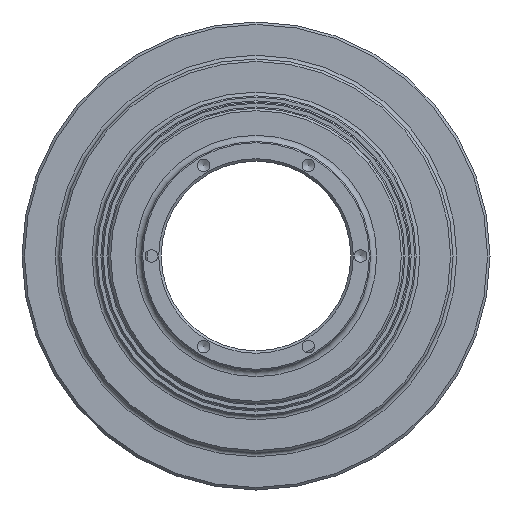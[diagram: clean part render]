
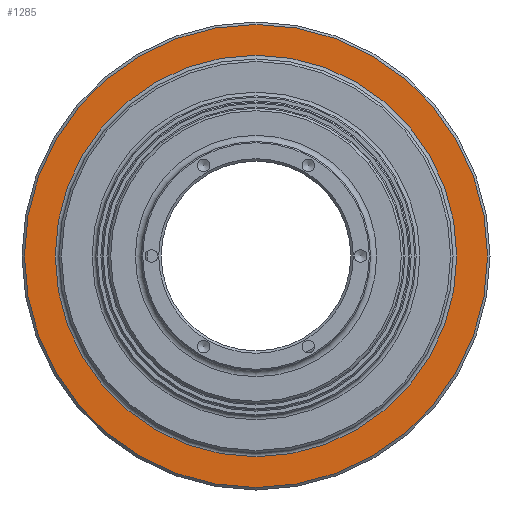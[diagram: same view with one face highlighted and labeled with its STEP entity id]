
A CAD part, left-side view. The second image highlights one B-rep face of the part: STEP entity #1285.
In plain terms, the highlighted planar face has unit normal (-1, 0, 0).
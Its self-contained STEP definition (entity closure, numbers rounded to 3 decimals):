
#59=FACE_BOUND('',#393,.T.);
#86=PLANE('',#1462);
#293=FACE_OUTER_BOUND('',#392,.T.);
#392=EDGE_LOOP('',(#1052));
#393=EDGE_LOOP('',(#1053));
#526=CIRCLE('',#1458,188.);
#529=CIRCLE('',#1463,163.);
#642=VERTEX_POINT('',#2223);
#645=VERTEX_POINT('',#2233);
#794=EDGE_CURVE('',#642,#642,#526,.T.);
#798=EDGE_CURVE('',#645,#645,#529,.T.);
#1052=ORIENTED_EDGE('',*,*,#794,.F.);
#1053=ORIENTED_EDGE('',*,*,#798,.F.);
#1285=ADVANCED_FACE('',(#293,#59),#86,.T.);
#1458=AXIS2_PLACEMENT_3D('',#2225,#1795,#1796);
#1462=AXIS2_PLACEMENT_3D('',#2232,#1804,#1805);
#1463=AXIS2_PLACEMENT_3D('',#2234,#1806,#1807);
#1795=DIRECTION('center_axis',(1.,0.,0.));
#1796=DIRECTION('ref_axis',(0.,-1.,0.));
#1804=DIRECTION('center_axis',(-1.,0.,0.));
#1805=DIRECTION('ref_axis',(0.,0.,1.));
#1806=DIRECTION('center_axis',(-1.,0.,0.));
#1807=DIRECTION('ref_axis',(0.,-1.,0.));
#2223=CARTESIAN_POINT('',(164.,188.,0.));
#2225=CARTESIAN_POINT('Origin',(164.,0.,0.));
#2232=CARTESIAN_POINT('Origin',(164.,190.,0.));
#2233=CARTESIAN_POINT('',(164.,0.,163.));
#2234=CARTESIAN_POINT('Origin',(164.,0.,0.));
